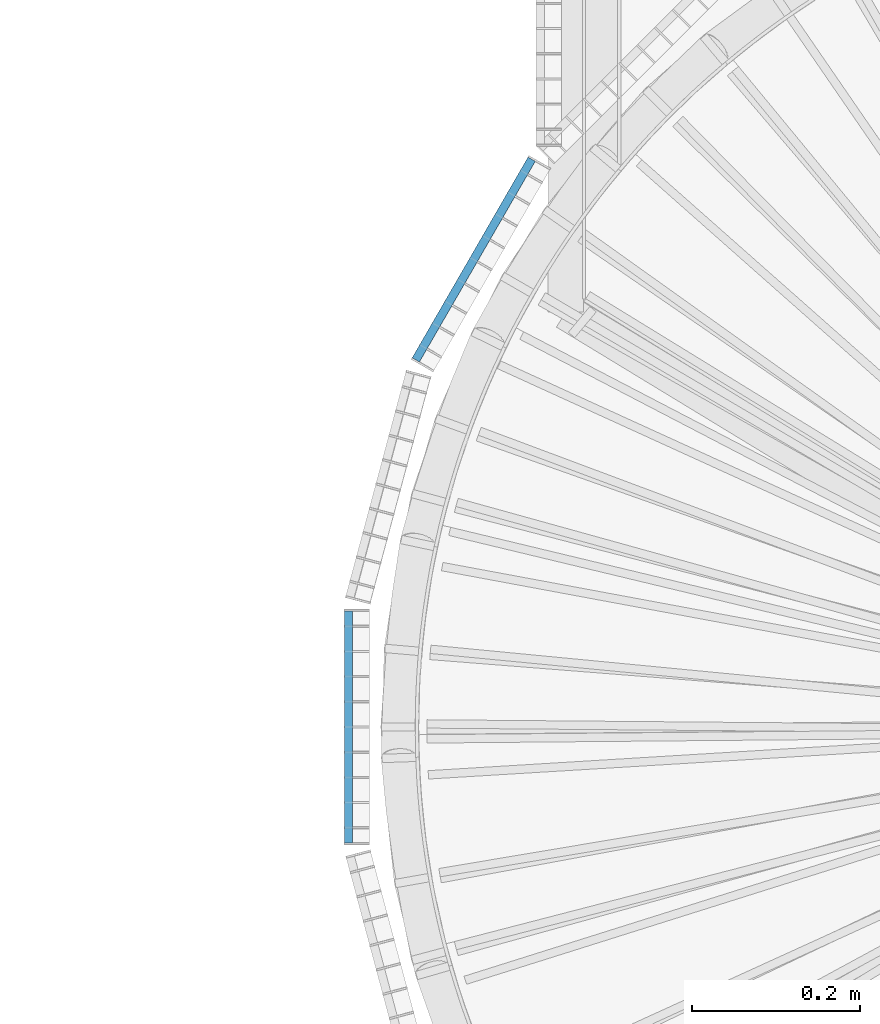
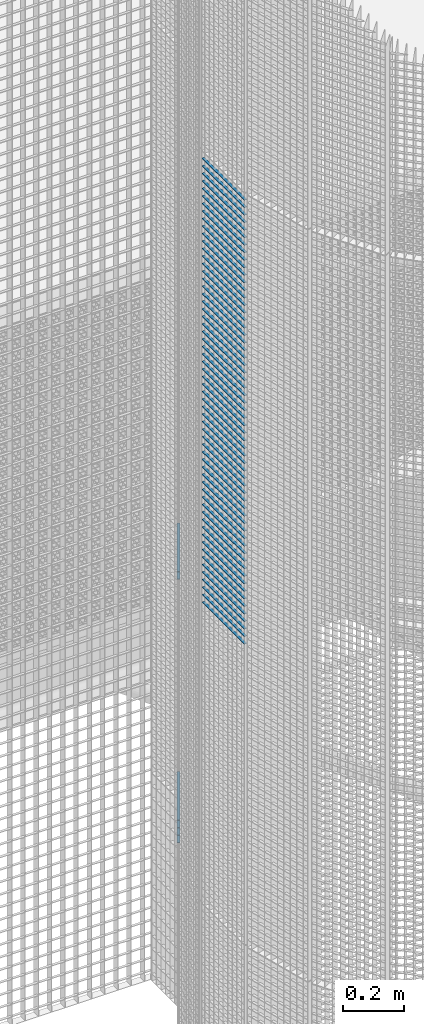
# One storey, part 198 of 1148: 66 beams, 2 elements without a shape of their own.
"""IFC2X3 building model written with IfcOpenShell, lengths in millimetres."""

from ifc_helpers import new_model, si_unit, frame, origin_with_axes, origin_2d_with_axis, place, context, subcontext, project, spatial, rectangle, extrude, material, type_object, element, aggregate, save


model = new_model("IFC2X3")

# Units and contexts
model_context = context("Model", 3, precision=1e-05, world=origin_with_axes())
body_context = subcontext(model_context, "Body", "Model", "MODEL_VIEW")
ifc_project = project(units=[si_unit("LENGTHUNIT", "METRE", prefix="MILLI"), si_unit("AREAUNIT", "SQUARE_METRE"), si_unit("VOLUMEUNIT", "CUBIC_METRE"), si_unit("MASSUNIT", "GRAM", prefix="KILO"), si_unit("TIMEUNIT", "SECOND"), si_unit("PLANEANGLEUNIT", "RADIAN"), si_unit("SOLIDANGLEUNIT", "STERADIAN"), si_unit("THERMODYNAMICTEMPERATUREUNIT", "DEGREE_CELSIUS"), si_unit("LUMINOUSINTENSITYUNIT", "LUMEN")], contexts=[model_context])

# Site, building, storey
site_placement = place(None, origin_with_axes())
site = spatial("IfcSite", under=ifc_project, at=site_placement, Name="Undefined", CompositionType="ELEMENT")
building_placement = place(site_placement, origin_with_axes())
building = spatial("IfcBuilding", under=site, at=building_placement, Name="Undefined", CompositionType="ELEMENT")
storey_placement = place(building_placement, origin_with_axes())
storey = spatial("IfcBuildingStorey", under=building, at=storey_placement, Name="Undefined", CompositionType="ELEMENT", Elevation=0.0)

# Assembly, beams
assembly_1_placement = place(storey_placement, origin_with_axes())
assembly_1 = element("IfcElementAssembly", 1, at=assembly_1_placement, inside=storey, Name="BORDURE", AssemblyPlace="NOTDEFINED", PredefinedType="NOTDEFINED")
ifc_material = material(Name="STEEL/S235JR")
beam_type = type_object("IfcBeamType", Name="PL2*10", PredefinedType="NOTDEFINED")
beam_1_placement = place(assembly_1_placement, frame((-895.30396491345, 676.24804453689, 6120.0), z_axis=(-0.866025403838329, 0.499999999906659, 0.0), x_axis=(-0.49999999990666, -0.866025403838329, 0.0)))
beam_1 = element("IfcBeam", 2, at=beam_1_placement, type_object=beam_type, material=ifc_material, Name="ENTRETOISE", context=body_context, shape_type="SweptSolid", body=[
    extrude(rectangle(XDim=2.0, YDim=10.0, at=origin_2d_with_axis()), frame((275.999999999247, 9.09494701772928e-13, 1.53210777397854e-14), z_axis=(-1.0, 0.0, 0.0), x_axis=(0.0, -1.0, 0.0)), (0.0, 0.0, 1.0), 276.0),
])
beam_2_placement = place(assembly_1_placement, frame((-895.303964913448, 676.248044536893, 7080.0), z_axis=(-0.866025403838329, 0.499999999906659, 0.0), x_axis=(-0.49999999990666, -0.866025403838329, 0.0)))
beam_2 = element("IfcBeam", 3, at=beam_2_placement, type_object=beam_type, material=ifc_material, Name="ENTRETOISE", context=body_context, shape_type="SweptSolid", body=[
    extrude(rectangle(XDim=2.0, YDim=10.0, at=origin_2d_with_axis()), frame((275.999999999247, 9.09494701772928e-13, 1.53210777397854e-14), z_axis=(-1.0, 0.0, 0.0), x_axis=(0.0, -1.0, 0.0)), (0.0, 0.0, 1.0), 276.0),
])
beam_3_placement = place(assembly_1_placement, frame((-895.30396491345, 676.24804453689, 6090.0), z_axis=(-0.866025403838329, 0.499999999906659, 0.0), x_axis=(-0.49999999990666, -0.866025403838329, 0.0)))
beam_3 = element("IfcBeam", 4, at=beam_3_placement, type_object=beam_type, material=ifc_material, Name="ENTRETOISE", context=body_context, shape_type="SweptSolid", body=[
    extrude(rectangle(XDim=2.0, YDim=10.0, at=origin_2d_with_axis()), frame((275.999999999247, 9.09494701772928e-13, 1.53210777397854e-14), z_axis=(-1.0, 0.0, 0.0), x_axis=(0.0, -1.0, 0.0)), (0.0, 0.0, 1.0), 276.0),
])
beam_4_placement = place(assembly_1_placement, frame((-895.30396491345, 676.24804453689, 6060.0), z_axis=(-0.866025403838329, 0.499999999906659, 0.0), x_axis=(-0.49999999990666, -0.866025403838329, 0.0)))
beam_4 = element("IfcBeam", 5, at=beam_4_placement, type_object=beam_type, material=ifc_material, Name="ENTRETOISE", context=body_context, shape_type="SweptSolid", body=[
    extrude(rectangle(XDim=2.0, YDim=10.0, at=origin_2d_with_axis()), frame((275.999999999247, 9.09494701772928e-13, 1.53210777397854e-14), z_axis=(-1.0, 0.0, 0.0), x_axis=(0.0, -1.0, 0.0)), (0.0, 0.0, 1.0), 276.0),
])
beam_5_placement = place(assembly_1_placement, frame((-895.303964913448, 676.248044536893, 7110.0), z_axis=(-0.866025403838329, 0.499999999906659, 0.0), x_axis=(-0.49999999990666, -0.866025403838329, 0.0)))
beam_5 = element("IfcBeam", 6, at=beam_5_placement, type_object=beam_type, material=ifc_material, Name="ENTRETOISE", context=body_context, shape_type="SweptSolid", body=[
    extrude(rectangle(XDim=2.0, YDim=10.0, at=origin_2d_with_axis()), frame((275.999999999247, 9.09494701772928e-13, 1.53210777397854e-14), z_axis=(-1.0, 0.0, 0.0), x_axis=(0.0, -1.0, 0.0)), (0.0, 0.0, 1.0), 276.0),
])
beam_6_placement = place(assembly_1_placement, frame((-895.30396491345, 676.248044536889, 6030.0), z_axis=(-0.866025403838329, 0.499999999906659, 0.0), x_axis=(-0.49999999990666, -0.866025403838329, 0.0)))
beam_6 = element("IfcBeam", 7, at=beam_6_placement, type_object=beam_type, material=ifc_material, Name="ENTRETOISE", context=body_context, shape_type="SweptSolid", body=[
    extrude(rectangle(XDim=2.0, YDim=10.0, at=origin_2d_with_axis()), frame((275.999999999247, 9.09494701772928e-13, 1.53210777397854e-14), z_axis=(-1.0, 0.0, 0.0), x_axis=(0.0, -1.0, 0.0)), (0.0, 0.0, 1.0), 276.0),
])
aggregate(assembly_1, [beam_1, beam_2, beam_3, beam_4, beam_5, beam_6])

assembly_2_placement = place(storey_placement, origin_with_axes())
assembly_2 = element("IfcElementAssembly", 8, at=assembly_2_placement, inside=storey, Name="BORDURE", AssemblyPlace="NOTDEFINED", PredefinedType="NOTDEFINED")
beam_7_placement = place(assembly_2_placement, frame((-1113.47999999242, 137.996003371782, 8970.0), z_axis=(-1.0, 0.0, 0.0), x_axis=(0.0, -1.0, 0.0)))
beam_7 = element("IfcBeam", 9, at=beam_7_placement, type_object=beam_type, material=ifc_material, Name="ENTRETOISE", context=body_context, shape_type="SweptSolid", body=[
    extrude(rectangle(XDim=2.0, YDim=10.0, at=origin_2d_with_axis()), frame((275.999999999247, 9.09494701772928e-13, 1.53210777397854e-14), z_axis=(-1.0, 0.0, 0.0), x_axis=(0.0, -1.0, 0.0)), (0.0, 0.0, 1.0), 276.0),
])
beam_8_placement = place(assembly_2_placement, frame((-1113.47999999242, 137.996003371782, 8940.0), z_axis=(-1.0, 0.0, 0.0), x_axis=(0.0, -1.0, 0.0)))
beam_8 = element("IfcBeam", 10, at=beam_8_placement, type_object=beam_type, material=ifc_material, Name="ENTRETOISE", context=body_context, shape_type="SweptSolid", body=[
    extrude(rectangle(XDim=2.0, YDim=10.0, at=origin_2d_with_axis()), frame((275.999999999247, 9.09494701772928e-13, 1.53210777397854e-14), z_axis=(-1.0, 0.0, 0.0), x_axis=(0.0, -1.0, 0.0)), (0.0, 0.0, 1.0), 276.0),
])
beam_9_placement = place(assembly_2_placement, frame((-1113.47999999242, 137.996003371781, 8910.0), z_axis=(-1.0, 0.0, 0.0), x_axis=(0.0, -1.0, 0.0)))
beam_9 = element("IfcBeam", 11, at=beam_9_placement, type_object=beam_type, material=ifc_material, Name="ENTRETOISE", context=body_context, shape_type="SweptSolid", body=[
    extrude(rectangle(XDim=2.0, YDim=10.0, at=origin_2d_with_axis()), frame((275.999999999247, 9.09494701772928e-13, 1.53210777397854e-14), z_axis=(-1.0, 0.0, 0.0), x_axis=(0.0, -1.0, 0.0)), (0.0, 0.0, 1.0), 276.0),
])
beam_10_placement = place(assembly_2_placement, frame((-1113.47999999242, 137.996003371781, 8880.0), z_axis=(-1.0, 0.0, 0.0), x_axis=(0.0, -1.0, 0.0)))
beam_10 = element("IfcBeam", 12, at=beam_10_placement, type_object=beam_type, material=ifc_material, Name="ENTRETOISE", context=body_context, shape_type="SweptSolid", body=[
    extrude(rectangle(XDim=2.0, YDim=10.0, at=origin_2d_with_axis()), frame((275.999999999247, 9.09494701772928e-13, 1.53210777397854e-14), z_axis=(-1.0, 0.0, 0.0), x_axis=(0.0, -1.0, 0.0)), (0.0, 0.0, 1.0), 276.0),
])
beam_11_placement = place(assembly_2_placement, frame((-1113.47999999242, 137.996003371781, 8850.0), z_axis=(-1.0, 0.0, 0.0), x_axis=(0.0, -1.0, 0.0)))
beam_11 = element("IfcBeam", 13, at=beam_11_placement, type_object=beam_type, material=ifc_material, Name="ENTRETOISE", context=body_context, shape_type="SweptSolid", body=[
    extrude(rectangle(XDim=2.0, YDim=10.0, at=origin_2d_with_axis()), frame((275.999999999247, 9.09494701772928e-13, 1.53210777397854e-14), z_axis=(-1.0, 0.0, 0.0), x_axis=(0.0, -1.0, 0.0)), (0.0, 0.0, 1.0), 276.0),
])
beam_12_placement = place(assembly_2_placement, frame((-1113.47999999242, 137.996003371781, 8820.0), z_axis=(-1.0, 0.0, 0.0), x_axis=(0.0, -1.0, 0.0)))
beam_12 = element("IfcBeam", 14, at=beam_12_placement, type_object=beam_type, material=ifc_material, Name="ENTRETOISE", context=body_context, shape_type="SweptSolid", body=[
    extrude(rectangle(XDim=2.0, YDim=10.0, at=origin_2d_with_axis()), frame((275.999999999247, 9.09494701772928e-13, 1.53210777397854e-14), z_axis=(-1.0, 0.0, 0.0), x_axis=(0.0, -1.0, 0.0)), (0.0, 0.0, 1.0), 276.0),
])
beam_13_placement = place(assembly_2_placement, frame((-1113.47999999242, 137.996003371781, 8790.0), z_axis=(-1.0, 0.0, 0.0), x_axis=(0.0, -1.0, 0.0)))
beam_13 = element("IfcBeam", 15, at=beam_13_placement, type_object=beam_type, material=ifc_material, Name="ENTRETOISE", context=body_context, shape_type="SweptSolid", body=[
    extrude(rectangle(XDim=2.0, YDim=10.0, at=origin_2d_with_axis()), frame((275.999999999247, 9.09494701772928e-13, 1.53210777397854e-14), z_axis=(-1.0, 0.0, 0.0), x_axis=(0.0, -1.0, 0.0)), (0.0, 0.0, 1.0), 276.0),
])
beam_14_placement = place(assembly_2_placement, frame((-1113.47999999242, 137.996003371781, 8760.0), z_axis=(-1.0, 0.0, 0.0), x_axis=(0.0, -1.0, 0.0)))
beam_14 = element("IfcBeam", 16, at=beam_14_placement, type_object=beam_type, material=ifc_material, Name="ENTRETOISE", context=body_context, shape_type="SweptSolid", body=[
    extrude(rectangle(XDim=2.0, YDim=10.0, at=origin_2d_with_axis()), frame((275.999999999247, 9.09494701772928e-13, 1.53210777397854e-14), z_axis=(-1.0, 0.0, 0.0), x_axis=(0.0, -1.0, 0.0)), (0.0, 0.0, 1.0), 276.0),
])
beam_15_placement = place(assembly_2_placement, frame((-1113.47999999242, 137.996003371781, 8730.0), z_axis=(-1.0, 0.0, 0.0), x_axis=(0.0, -1.0, 0.0)))
beam_15 = element("IfcBeam", 17, at=beam_15_placement, type_object=beam_type, material=ifc_material, Name="ENTRETOISE", context=body_context, shape_type="SweptSolid", body=[
    extrude(rectangle(XDim=2.0, YDim=10.0, at=origin_2d_with_axis()), frame((275.999999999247, 9.09494701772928e-13, 1.53210777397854e-14), z_axis=(-1.0, 0.0, 0.0), x_axis=(0.0, -1.0, 0.0)), (0.0, 0.0, 1.0), 276.0),
])
beam_16_placement = place(assembly_2_placement, frame((-1113.47999999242, 137.996003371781, 8700.0), z_axis=(-1.0, 0.0, 0.0), x_axis=(0.0, -1.0, 0.0)))
beam_16 = element("IfcBeam", 18, at=beam_16_placement, type_object=beam_type, material=ifc_material, Name="ENTRETOISE", context=body_context, shape_type="SweptSolid", body=[
    extrude(rectangle(XDim=2.0, YDim=10.0, at=origin_2d_with_axis()), frame((275.999999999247, 9.09494701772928e-13, 1.53210777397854e-14), z_axis=(-1.0, 0.0, 0.0), x_axis=(0.0, -1.0, 0.0)), (0.0, 0.0, 1.0), 276.0),
])
beam_17_placement = place(assembly_2_placement, frame((-1113.47999999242, 137.996003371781, 8670.0), z_axis=(-1.0, 0.0, 0.0), x_axis=(0.0, -1.0, 0.0)))
beam_17 = element("IfcBeam", 19, at=beam_17_placement, type_object=beam_type, material=ifc_material, Name="ENTRETOISE", context=body_context, shape_type="SweptSolid", body=[
    extrude(rectangle(XDim=2.0, YDim=10.0, at=origin_2d_with_axis()), frame((275.999999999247, 9.09494701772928e-13, 1.53210777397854e-14), z_axis=(-1.0, 0.0, 0.0), x_axis=(0.0, -1.0, 0.0)), (0.0, 0.0, 1.0), 276.0),
])
beam_18_placement = place(assembly_2_placement, frame((-1113.47999999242, 137.99600337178, 8640.0), z_axis=(-1.0, 0.0, 0.0), x_axis=(0.0, -1.0, 0.0)))
beam_18 = element("IfcBeam", 20, at=beam_18_placement, type_object=beam_type, material=ifc_material, Name="ENTRETOISE", context=body_context, shape_type="SweptSolid", body=[
    extrude(rectangle(XDim=2.0, YDim=10.0, at=origin_2d_with_axis()), frame((275.999999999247, 9.09494701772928e-13, 1.53210777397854e-14), z_axis=(-1.0, 0.0, 0.0), x_axis=(0.0, -1.0, 0.0)), (0.0, 0.0, 1.0), 276.0),
])
beam_19_placement = place(assembly_2_placement, frame((-1113.47999999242, 137.99600337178, 8610.0), z_axis=(-1.0, 0.0, 0.0), x_axis=(0.0, -1.0, 0.0)))
beam_19 = element("IfcBeam", 21, at=beam_19_placement, type_object=beam_type, material=ifc_material, Name="ENTRETOISE", context=body_context, shape_type="SweptSolid", body=[
    extrude(rectangle(XDim=2.0, YDim=10.0, at=origin_2d_with_axis()), frame((275.999999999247, 9.09494701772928e-13, 1.53210777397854e-14), z_axis=(-1.0, 0.0, 0.0), x_axis=(0.0, -1.0, 0.0)), (0.0, 0.0, 1.0), 276.0),
])
beam_20_placement = place(assembly_2_placement, frame((-1113.47999999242, 137.99600337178, 8580.0), z_axis=(-1.0, 0.0, 0.0), x_axis=(0.0, -1.0, 0.0)))
beam_20 = element("IfcBeam", 22, at=beam_20_placement, type_object=beam_type, material=ifc_material, Name="ENTRETOISE", context=body_context, shape_type="SweptSolid", body=[
    extrude(rectangle(XDim=2.0, YDim=10.0, at=origin_2d_with_axis()), frame((275.999999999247, 9.09494701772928e-13, 1.53210777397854e-14), z_axis=(-1.0, 0.0, 0.0), x_axis=(0.0, -1.0, 0.0)), (0.0, 0.0, 1.0), 276.0),
])
beam_21_placement = place(assembly_2_placement, frame((-1113.47999999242, 137.99600337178, 8550.0), z_axis=(-1.0, 0.0, 0.0), x_axis=(0.0, -1.0, 0.0)))
beam_21 = element("IfcBeam", 23, at=beam_21_placement, type_object=beam_type, material=ifc_material, Name="ENTRETOISE", context=body_context, shape_type="SweptSolid", body=[
    extrude(rectangle(XDim=2.0, YDim=10.0, at=origin_2d_with_axis()), frame((275.999999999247, 9.09494701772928e-13, 1.53210777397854e-14), z_axis=(-1.0, 0.0, 0.0), x_axis=(0.0, -1.0, 0.0)), (0.0, 0.0, 1.0), 276.0),
])
beam_22_placement = place(assembly_2_placement, frame((-1113.47999999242, 137.99600337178, 8520.0), z_axis=(-1.0, 0.0, 0.0), x_axis=(0.0, -1.0, 0.0)))
beam_22 = element("IfcBeam", 24, at=beam_22_placement, type_object=beam_type, material=ifc_material, Name="ENTRETOISE", context=body_context, shape_type="SweptSolid", body=[
    extrude(rectangle(XDim=2.0, YDim=10.0, at=origin_2d_with_axis()), frame((275.999999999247, 9.09494701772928e-13, 1.53210777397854e-14), z_axis=(-1.0, 0.0, 0.0), x_axis=(0.0, -1.0, 0.0)), (0.0, 0.0, 1.0), 276.0),
])
beam_23_placement = place(assembly_2_placement, frame((-1113.47999999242, 137.99600337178, 8490.0), z_axis=(-1.0, 0.0, 0.0), x_axis=(0.0, -1.0, 0.0)))
beam_23 = element("IfcBeam", 25, at=beam_23_placement, type_object=beam_type, material=ifc_material, Name="ENTRETOISE", context=body_context, shape_type="SweptSolid", body=[
    extrude(rectangle(XDim=2.0, YDim=10.0, at=origin_2d_with_axis()), frame((275.999999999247, 9.09494701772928e-13, 1.53210777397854e-14), z_axis=(-1.0, 0.0, 0.0), x_axis=(0.0, -1.0, 0.0)), (0.0, 0.0, 1.0), 276.0),
])
beam_24_placement = place(assembly_2_placement, frame((-1113.47999999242, 137.99600337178, 8460.0), z_axis=(-1.0, 0.0, 0.0), x_axis=(0.0, -1.0, 0.0)))
beam_24 = element("IfcBeam", 26, at=beam_24_placement, type_object=beam_type, material=ifc_material, Name="ENTRETOISE", context=body_context, shape_type="SweptSolid", body=[
    extrude(rectangle(XDim=2.0, YDim=10.0, at=origin_2d_with_axis()), frame((275.999999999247, 9.09494701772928e-13, 1.53210777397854e-14), z_axis=(-1.0, 0.0, 0.0), x_axis=(0.0, -1.0, 0.0)), (0.0, 0.0, 1.0), 276.0),
])
beam_25_placement = place(assembly_2_placement, frame((-1113.47999999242, 137.99600337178, 8430.0), z_axis=(-1.0, 0.0, 0.0), x_axis=(0.0, -1.0, 0.0)))
beam_25 = element("IfcBeam", 27, at=beam_25_placement, type_object=beam_type, material=ifc_material, Name="ENTRETOISE", context=body_context, shape_type="SweptSolid", body=[
    extrude(rectangle(XDim=2.0, YDim=10.0, at=origin_2d_with_axis()), frame((275.999999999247, 9.09494701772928e-13, 1.53210777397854e-14), z_axis=(-1.0, 0.0, 0.0), x_axis=(0.0, -1.0, 0.0)), (0.0, 0.0, 1.0), 276.0),
])
beam_26_placement = place(assembly_2_placement, frame((-1113.47999999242, 137.99600337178, 8400.0), z_axis=(-1.0, 0.0, 0.0), x_axis=(0.0, -1.0, 0.0)))
beam_26 = element("IfcBeam", 28, at=beam_26_placement, type_object=beam_type, material=ifc_material, Name="ENTRETOISE", context=body_context, shape_type="SweptSolid", body=[
    extrude(rectangle(XDim=2.0, YDim=10.0, at=origin_2d_with_axis()), frame((275.999999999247, 9.09494701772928e-13, 1.53210777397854e-14), z_axis=(-1.0, 0.0, 0.0), x_axis=(0.0, -1.0, 0.0)), (0.0, 0.0, 1.0), 276.0),
])
beam_27_placement = place(assembly_2_placement, frame((-1113.47999999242, 137.996003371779, 8370.0), z_axis=(-1.0, 0.0, 0.0), x_axis=(0.0, -1.0, 0.0)))
beam_27 = element("IfcBeam", 29, at=beam_27_placement, type_object=beam_type, material=ifc_material, Name="ENTRETOISE", context=body_context, shape_type="SweptSolid", body=[
    extrude(rectangle(XDim=2.0, YDim=10.0, at=origin_2d_with_axis()), frame((275.999999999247, 9.09494701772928e-13, 1.53210777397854e-14), z_axis=(-1.0, 0.0, 0.0), x_axis=(0.0, -1.0, 0.0)), (0.0, 0.0, 1.0), 276.0),
])
beam_28_placement = place(assembly_2_placement, frame((-1113.47999999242, 137.996003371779, 8340.0), z_axis=(-1.0, 0.0, 0.0), x_axis=(0.0, -1.0, 0.0)))
beam_28 = element("IfcBeam", 30, at=beam_28_placement, type_object=beam_type, material=ifc_material, Name="ENTRETOISE", context=body_context, shape_type="SweptSolid", body=[
    extrude(rectangle(XDim=2.0, YDim=10.0, at=origin_2d_with_axis()), frame((275.999999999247, 9.09494701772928e-13, 1.53210777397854e-14), z_axis=(-1.0, 0.0, 0.0), x_axis=(0.0, -1.0, 0.0)), (0.0, 0.0, 1.0), 276.0),
])
beam_29_placement = place(assembly_2_placement, frame((-1113.47999999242, 137.996003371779, 8310.0), z_axis=(-1.0, 0.0, 0.0), x_axis=(0.0, -1.0, 0.0)))
beam_29 = element("IfcBeam", 31, at=beam_29_placement, type_object=beam_type, material=ifc_material, Name="ENTRETOISE", context=body_context, shape_type="SweptSolid", body=[
    extrude(rectangle(XDim=2.0, YDim=10.0, at=origin_2d_with_axis()), frame((275.999999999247, 9.09494701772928e-13, 1.53210777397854e-14), z_axis=(-1.0, 0.0, 0.0), x_axis=(0.0, -1.0, 0.0)), (0.0, 0.0, 1.0), 276.0),
])
beam_30_placement = place(assembly_2_placement, frame((-1113.47999999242, 137.996003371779, 8280.0), z_axis=(-1.0, 0.0, 0.0), x_axis=(0.0, -1.0, 0.0)))
beam_30 = element("IfcBeam", 32, at=beam_30_placement, type_object=beam_type, material=ifc_material, Name="ENTRETOISE", context=body_context, shape_type="SweptSolid", body=[
    extrude(rectangle(XDim=2.0, YDim=10.0, at=origin_2d_with_axis()), frame((275.999999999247, 9.09494701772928e-13, 1.53210777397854e-14), z_axis=(-1.0, 0.0, 0.0), x_axis=(0.0, -1.0, 0.0)), (0.0, 0.0, 1.0), 276.0),
])
beam_31_placement = place(assembly_2_placement, frame((-1113.47999999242, 137.996003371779, 8250.0), z_axis=(-1.0, 0.0, 0.0), x_axis=(0.0, -1.0, 0.0)))
beam_31 = element("IfcBeam", 33, at=beam_31_placement, type_object=beam_type, material=ifc_material, Name="ENTRETOISE", context=body_context, shape_type="SweptSolid", body=[
    extrude(rectangle(XDim=2.0, YDim=10.0, at=origin_2d_with_axis()), frame((275.999999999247, 9.09494701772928e-13, 1.53210777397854e-14), z_axis=(-1.0, 0.0, 0.0), x_axis=(0.0, -1.0, 0.0)), (0.0, 0.0, 1.0), 276.0),
])
beam_32_placement = place(assembly_2_placement, frame((-1113.47999999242, 137.996003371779, 8220.0), z_axis=(-1.0, 0.0, 0.0), x_axis=(0.0, -1.0, 0.0)))
beam_32 = element("IfcBeam", 34, at=beam_32_placement, type_object=beam_type, material=ifc_material, Name="ENTRETOISE", context=body_context, shape_type="SweptSolid", body=[
    extrude(rectangle(XDim=2.0, YDim=10.0, at=origin_2d_with_axis()), frame((275.999999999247, 9.09494701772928e-13, 1.53210777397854e-14), z_axis=(-1.0, 0.0, 0.0), x_axis=(0.0, -1.0, 0.0)), (0.0, 0.0, 1.0), 276.0),
])
beam_33_placement = place(assembly_2_placement, frame((-1113.47999999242, 137.996003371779, 8190.0), z_axis=(-1.0, 0.0, 0.0), x_axis=(0.0, -1.0, 0.0)))
beam_33 = element("IfcBeam", 35, at=beam_33_placement, type_object=beam_type, material=ifc_material, Name="ENTRETOISE", context=body_context, shape_type="SweptSolid", body=[
    extrude(rectangle(XDim=2.0, YDim=10.0, at=origin_2d_with_axis()), frame((275.999999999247, 9.09494701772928e-13, 1.53210777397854e-14), z_axis=(-1.0, 0.0, 0.0), x_axis=(0.0, -1.0, 0.0)), (0.0, 0.0, 1.0), 276.0),
])
beam_34_placement = place(assembly_2_placement, frame((-1113.47999999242, 137.996003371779, 8160.0), z_axis=(-1.0, 0.0, 0.0), x_axis=(0.0, -1.0, 0.0)))
beam_34 = element("IfcBeam", 36, at=beam_34_placement, type_object=beam_type, material=ifc_material, Name="ENTRETOISE", context=body_context, shape_type="SweptSolid", body=[
    extrude(rectangle(XDim=2.0, YDim=10.0, at=origin_2d_with_axis()), frame((275.999999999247, 9.09494701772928e-13, 1.53210777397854e-14), z_axis=(-1.0, 0.0, 0.0), x_axis=(0.0, -1.0, 0.0)), (0.0, 0.0, 1.0), 276.0),
])
beam_35_placement = place(assembly_2_placement, frame((-1113.47999999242, 137.996003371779, 8130.0), z_axis=(-1.0, 0.0, 0.0), x_axis=(0.0, -1.0, 0.0)))
beam_35 = element("IfcBeam", 37, at=beam_35_placement, type_object=beam_type, material=ifc_material, Name="ENTRETOISE", context=body_context, shape_type="SweptSolid", body=[
    extrude(rectangle(XDim=2.0, YDim=10.0, at=origin_2d_with_axis()), frame((275.999999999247, 9.09494701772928e-13, 1.53210777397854e-14), z_axis=(-1.0, 0.0, 0.0), x_axis=(0.0, -1.0, 0.0)), (0.0, 0.0, 1.0), 276.0),
])
beam_36_placement = place(assembly_2_placement, frame((-1113.47999999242, 137.996003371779, 8100.0), z_axis=(-1.0, 0.0, 0.0), x_axis=(0.0, -1.0, 0.0)))
beam_36 = element("IfcBeam", 38, at=beam_36_placement, type_object=beam_type, material=ifc_material, Name="ENTRETOISE", context=body_context, shape_type="SweptSolid", body=[
    extrude(rectangle(XDim=2.0, YDim=10.0, at=origin_2d_with_axis()), frame((275.999999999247, 9.09494701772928e-13, 1.53210777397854e-14), z_axis=(-1.0, 0.0, 0.0), x_axis=(0.0, -1.0, 0.0)), (0.0, 0.0, 1.0), 276.0),
])
beam_37_placement = place(assembly_2_placement, frame((-1113.47999999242, 137.996003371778, 8070.0), z_axis=(-1.0, 0.0, 0.0), x_axis=(0.0, -1.0, 0.0)))
beam_37 = element("IfcBeam", 39, at=beam_37_placement, type_object=beam_type, material=ifc_material, Name="ENTRETOISE", context=body_context, shape_type="SweptSolid", body=[
    extrude(rectangle(XDim=2.0, YDim=10.0, at=origin_2d_with_axis()), frame((275.999999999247, 9.09494701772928e-13, 1.53210777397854e-14), z_axis=(-1.0, 0.0, 0.0), x_axis=(0.0, -1.0, 0.0)), (0.0, 0.0, 1.0), 276.0),
])
beam_38_placement = place(assembly_2_placement, frame((-1113.47999999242, 137.996003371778, 8040.0), z_axis=(-1.0, 0.0, 0.0), x_axis=(0.0, -1.0, 0.0)))
beam_38 = element("IfcBeam", 40, at=beam_38_placement, type_object=beam_type, material=ifc_material, Name="ENTRETOISE", context=body_context, shape_type="SweptSolid", body=[
    extrude(rectangle(XDim=2.0, YDim=10.0, at=origin_2d_with_axis()), frame((275.999999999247, 9.09494701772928e-13, 1.53210777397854e-14), z_axis=(-1.0, 0.0, 0.0), x_axis=(0.0, -1.0, 0.0)), (0.0, 0.0, 1.0), 276.0),
])
beam_39_placement = place(assembly_2_placement, frame((-1113.47999999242, 137.996003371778, 8010.0), z_axis=(-1.0, 0.0, 0.0), x_axis=(0.0, -1.0, 0.0)))
beam_39 = element("IfcBeam", 41, at=beam_39_placement, type_object=beam_type, material=ifc_material, Name="ENTRETOISE", context=body_context, shape_type="SweptSolid", body=[
    extrude(rectangle(XDim=2.0, YDim=10.0, at=origin_2d_with_axis()), frame((275.999999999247, 9.09494701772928e-13, 1.53210777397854e-14), z_axis=(-1.0, 0.0, 0.0), x_axis=(0.0, -1.0, 0.0)), (0.0, 0.0, 1.0), 276.0),
])
beam_40_placement = place(assembly_2_placement, frame((-1113.47999999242, 137.996003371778, 7980.0), z_axis=(-1.0, 0.0, 0.0), x_axis=(0.0, -1.0, 0.0)))
beam_40 = element("IfcBeam", 42, at=beam_40_placement, type_object=beam_type, material=ifc_material, Name="ENTRETOISE", context=body_context, shape_type="SweptSolid", body=[
    extrude(rectangle(XDim=2.0, YDim=10.0, at=origin_2d_with_axis()), frame((275.999999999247, 9.09494701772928e-13, 1.53210777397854e-14), z_axis=(-1.0, 0.0, 0.0), x_axis=(0.0, -1.0, 0.0)), (0.0, 0.0, 1.0), 276.0),
])
beam_41_placement = place(assembly_2_placement, frame((-1113.47999999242, 137.996003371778, 7950.0), z_axis=(-1.0, 0.0, 0.0), x_axis=(0.0, -1.0, 0.0)))
beam_41 = element("IfcBeam", 43, at=beam_41_placement, type_object=beam_type, material=ifc_material, Name="ENTRETOISE", context=body_context, shape_type="SweptSolid", body=[
    extrude(rectangle(XDim=2.0, YDim=10.0, at=origin_2d_with_axis()), frame((275.999999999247, 9.09494701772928e-13, 1.53210777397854e-14), z_axis=(-1.0, 0.0, 0.0), x_axis=(0.0, -1.0, 0.0)), (0.0, 0.0, 1.0), 276.0),
])
beam_42_placement = place(assembly_2_placement, frame((-1113.47999999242, 137.996003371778, 7920.0), z_axis=(-1.0, 0.0, 0.0), x_axis=(0.0, -1.0, 0.0)))
beam_42 = element("IfcBeam", 44, at=beam_42_placement, type_object=beam_type, material=ifc_material, Name="ENTRETOISE", context=body_context, shape_type="SweptSolid", body=[
    extrude(rectangle(XDim=2.0, YDim=10.0, at=origin_2d_with_axis()), frame((275.999999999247, 9.09494701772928e-13, 1.53210777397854e-14), z_axis=(-1.0, 0.0, 0.0), x_axis=(0.0, -1.0, 0.0)), (0.0, 0.0, 1.0), 276.0),
])
beam_43_placement = place(assembly_2_placement, frame((-1113.47999999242, 137.996003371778, 7890.0), z_axis=(-1.0, 0.0, 0.0), x_axis=(0.0, -1.0, 0.0)))
beam_43 = element("IfcBeam", 45, at=beam_43_placement, type_object=beam_type, material=ifc_material, Name="ENTRETOISE", context=body_context, shape_type="SweptSolid", body=[
    extrude(rectangle(XDim=2.0, YDim=10.0, at=origin_2d_with_axis()), frame((275.999999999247, 9.09494701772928e-13, 1.53210777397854e-14), z_axis=(-1.0, 0.0, 0.0), x_axis=(0.0, -1.0, 0.0)), (0.0, 0.0, 1.0), 276.0),
])
beam_44_placement = place(assembly_2_placement, frame((-1113.47999999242, 137.996003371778, 7860.0), z_axis=(-1.0, 0.0, 0.0), x_axis=(0.0, -1.0, 0.0)))
beam_44 = element("IfcBeam", 46, at=beam_44_placement, type_object=beam_type, material=ifc_material, Name="ENTRETOISE", context=body_context, shape_type="SweptSolid", body=[
    extrude(rectangle(XDim=2.0, YDim=10.0, at=origin_2d_with_axis()), frame((275.999999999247, 9.09494701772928e-13, 1.53210777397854e-14), z_axis=(-1.0, 0.0, 0.0), x_axis=(0.0, -1.0, 0.0)), (0.0, 0.0, 1.0), 276.0),
])
beam_45_placement = place(assembly_2_placement, frame((-1113.47999999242, 137.996003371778, 7830.0), z_axis=(-1.0, 0.0, 0.0), x_axis=(0.0, -1.0, 0.0)))
beam_45 = element("IfcBeam", 47, at=beam_45_placement, type_object=beam_type, material=ifc_material, Name="ENTRETOISE", context=body_context, shape_type="SweptSolid", body=[
    extrude(rectangle(XDim=2.0, YDim=10.0, at=origin_2d_with_axis()), frame((275.999999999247, 9.09494701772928e-13, 1.53210777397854e-14), z_axis=(-1.0, 0.0, 0.0), x_axis=(0.0, -1.0, 0.0)), (0.0, 0.0, 1.0), 276.0),
])
beam_46_placement = place(assembly_2_placement, frame((-1113.47999999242, 137.996003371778, 7800.0), z_axis=(-1.0, 0.0, 0.0), x_axis=(0.0, -1.0, 0.0)))
beam_46 = element("IfcBeam", 48, at=beam_46_placement, type_object=beam_type, material=ifc_material, Name="ENTRETOISE", context=body_context, shape_type="SweptSolid", body=[
    extrude(rectangle(XDim=2.0, YDim=10.0, at=origin_2d_with_axis()), frame((275.999999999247, 9.09494701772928e-13, 1.53210777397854e-14), z_axis=(-1.0, 0.0, 0.0), x_axis=(0.0, -1.0, 0.0)), (0.0, 0.0, 1.0), 276.0),
])
beam_47_placement = place(assembly_2_placement, frame((-1113.47999999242, 137.996003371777, 7770.0), z_axis=(-1.0, 0.0, 0.0), x_axis=(0.0, -1.0, 0.0)))
beam_47 = element("IfcBeam", 49, at=beam_47_placement, type_object=beam_type, material=ifc_material, Name="ENTRETOISE", context=body_context, shape_type="SweptSolid", body=[
    extrude(rectangle(XDim=2.0, YDim=10.0, at=origin_2d_with_axis()), frame((275.999999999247, 9.09494701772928e-13, 1.53210777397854e-14), z_axis=(-1.0, 0.0, 0.0), x_axis=(0.0, -1.0, 0.0)), (0.0, 0.0, 1.0), 276.0),
])
beam_48_placement = place(assembly_2_placement, frame((-1113.47999999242, 137.996003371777, 7740.0), z_axis=(-1.0, 0.0, 0.0), x_axis=(0.0, -1.0, 0.0)))
beam_48 = element("IfcBeam", 50, at=beam_48_placement, type_object=beam_type, material=ifc_material, Name="ENTRETOISE", context=body_context, shape_type="SweptSolid", body=[
    extrude(rectangle(XDim=2.0, YDim=10.0, at=origin_2d_with_axis()), frame((275.999999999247, 9.09494701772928e-13, 1.53210777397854e-14), z_axis=(-1.0, 0.0, 0.0), x_axis=(0.0, -1.0, 0.0)), (0.0, 0.0, 1.0), 276.0),
])
beam_49_placement = place(assembly_2_placement, frame((-1113.47999999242, 137.996003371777, 7710.0), z_axis=(-1.0, 0.0, 0.0), x_axis=(0.0, -1.0, 0.0)))
beam_49 = element("IfcBeam", 51, at=beam_49_placement, type_object=beam_type, material=ifc_material, Name="ENTRETOISE", context=body_context, shape_type="SweptSolid", body=[
    extrude(rectangle(XDim=2.0, YDim=10.0, at=origin_2d_with_axis()), frame((275.999999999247, 9.09494701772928e-13, 1.53210777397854e-14), z_axis=(-1.0, 0.0, 0.0), x_axis=(0.0, -1.0, 0.0)), (0.0, 0.0, 1.0), 276.0),
])
beam_50_placement = place(assembly_2_placement, frame((-1113.47999999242, 137.996003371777, 7680.0), z_axis=(-1.0, 0.0, 0.0), x_axis=(0.0, -1.0, 0.0)))
beam_50 = element("IfcBeam", 52, at=beam_50_placement, type_object=beam_type, material=ifc_material, Name="ENTRETOISE", context=body_context, shape_type="SweptSolid", body=[
    extrude(rectangle(XDim=2.0, YDim=10.0, at=origin_2d_with_axis()), frame((275.999999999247, 9.09494701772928e-13, 1.53210777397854e-14), z_axis=(-1.0, 0.0, 0.0), x_axis=(0.0, -1.0, 0.0)), (0.0, 0.0, 1.0), 276.0),
])
beam_51_placement = place(assembly_2_placement, frame((-1113.47999999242, 137.996003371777, 7650.0), z_axis=(-1.0, 0.0, 0.0), x_axis=(0.0, -1.0, 0.0)))
beam_51 = element("IfcBeam", 53, at=beam_51_placement, type_object=beam_type, material=ifc_material, Name="ENTRETOISE", context=body_context, shape_type="SweptSolid", body=[
    extrude(rectangle(XDim=2.0, YDim=10.0, at=origin_2d_with_axis()), frame((275.999999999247, 9.09494701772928e-13, 1.53210777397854e-14), z_axis=(-1.0, 0.0, 0.0), x_axis=(0.0, -1.0, 0.0)), (0.0, 0.0, 1.0), 276.0),
])
beam_52_placement = place(assembly_2_placement, frame((-1113.47999999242, 137.996003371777, 7620.0), z_axis=(-1.0, 0.0, 0.0), x_axis=(0.0, -1.0, 0.0)))
beam_52 = element("IfcBeam", 54, at=beam_52_placement, type_object=beam_type, material=ifc_material, Name="ENTRETOISE", context=body_context, shape_type="SweptSolid", body=[
    extrude(rectangle(XDim=2.0, YDim=10.0, at=origin_2d_with_axis()), frame((275.999999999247, 9.09494701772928e-13, 1.53210777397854e-14), z_axis=(-1.0, 0.0, 0.0), x_axis=(0.0, -1.0, 0.0)), (0.0, 0.0, 1.0), 276.0),
])
beam_53_placement = place(assembly_2_placement, frame((-1113.47999999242, 137.996003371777, 7590.0), z_axis=(-1.0, 0.0, 0.0), x_axis=(0.0, -1.0, 0.0)))
beam_53 = element("IfcBeam", 55, at=beam_53_placement, type_object=beam_type, material=ifc_material, Name="ENTRETOISE", context=body_context, shape_type="SweptSolid", body=[
    extrude(rectangle(XDim=2.0, YDim=10.0, at=origin_2d_with_axis()), frame((275.999999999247, 9.09494701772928e-13, 1.53210777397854e-14), z_axis=(-1.0, 0.0, 0.0), x_axis=(0.0, -1.0, 0.0)), (0.0, 0.0, 1.0), 276.0),
])
beam_54_placement = place(assembly_2_placement, frame((-1113.47999999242, 137.996003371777, 7560.0), z_axis=(-1.0, 0.0, 0.0), x_axis=(0.0, -1.0, 0.0)))
beam_54 = element("IfcBeam", 56, at=beam_54_placement, type_object=beam_type, material=ifc_material, Name="ENTRETOISE", context=body_context, shape_type="SweptSolid", body=[
    extrude(rectangle(XDim=2.0, YDim=10.0, at=origin_2d_with_axis()), frame((275.999999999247, 9.09494701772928e-13, 1.53210777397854e-14), z_axis=(-1.0, 0.0, 0.0), x_axis=(0.0, -1.0, 0.0)), (0.0, 0.0, 1.0), 276.0),
])
beam_55_placement = place(assembly_2_placement, frame((-1113.47999999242, 137.996003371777, 7530.0), z_axis=(-1.0, 0.0, 0.0), x_axis=(0.0, -1.0, 0.0)))
beam_55 = element("IfcBeam", 57, at=beam_55_placement, type_object=beam_type, material=ifc_material, Name="ENTRETOISE", context=body_context, shape_type="SweptSolid", body=[
    extrude(rectangle(XDim=2.0, YDim=10.0, at=origin_2d_with_axis()), frame((275.999999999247, 9.09494701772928e-13, 1.53210777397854e-14), z_axis=(-1.0, 0.0, 0.0), x_axis=(0.0, -1.0, 0.0)), (0.0, 0.0, 1.0), 276.0),
])
beam_56_placement = place(assembly_2_placement, frame((-1113.47999999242, 137.996003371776, 7500.0), z_axis=(-1.0, 0.0, 0.0), x_axis=(0.0, -1.0, 0.0)))
beam_56 = element("IfcBeam", 58, at=beam_56_placement, type_object=beam_type, material=ifc_material, Name="ENTRETOISE", context=body_context, shape_type="SweptSolid", body=[
    extrude(rectangle(XDim=2.0, YDim=10.0, at=origin_2d_with_axis()), frame((275.999999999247, 9.09494701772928e-13, 1.53210777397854e-14), z_axis=(-1.0, 0.0, 0.0), x_axis=(0.0, -1.0, 0.0)), (0.0, 0.0, 1.0), 276.0),
])
beam_57_placement = place(assembly_2_placement, frame((-1113.47999999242, 137.996003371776, 7470.0), z_axis=(-1.0, 0.0, 0.0), x_axis=(0.0, -1.0, 0.0)))
beam_57 = element("IfcBeam", 59, at=beam_57_placement, type_object=beam_type, material=ifc_material, Name="ENTRETOISE", context=body_context, shape_type="SweptSolid", body=[
    extrude(rectangle(XDim=2.0, YDim=10.0, at=origin_2d_with_axis()), frame((275.999999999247, 9.09494701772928e-13, 1.53210777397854e-14), z_axis=(-1.0, 0.0, 0.0), x_axis=(0.0, -1.0, 0.0)), (0.0, 0.0, 1.0), 276.0),
])
beam_58_placement = place(assembly_2_placement, frame((-1113.47999999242, 137.996003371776, 7440.0), z_axis=(-1.0, 0.0, 0.0), x_axis=(0.0, -1.0, 0.0)))
beam_58 = element("IfcBeam", 60, at=beam_58_placement, type_object=beam_type, material=ifc_material, Name="ENTRETOISE", context=body_context, shape_type="SweptSolid", body=[
    extrude(rectangle(XDim=2.0, YDim=10.0, at=origin_2d_with_axis()), frame((275.999999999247, 9.09494701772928e-13, 1.53210777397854e-14), z_axis=(-1.0, 0.0, 0.0), x_axis=(0.0, -1.0, 0.0)), (0.0, 0.0, 1.0), 276.0),
])
beam_59_placement = place(assembly_2_placement, frame((-1113.47999999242, 137.996003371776, 7410.0), z_axis=(-1.0, 0.0, 0.0), x_axis=(0.0, -1.0, 0.0)))
beam_59 = element("IfcBeam", 61, at=beam_59_placement, type_object=beam_type, material=ifc_material, Name="ENTRETOISE", context=body_context, shape_type="SweptSolid", body=[
    extrude(rectangle(XDim=2.0, YDim=10.0, at=origin_2d_with_axis()), frame((275.999999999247, 9.09494701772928e-13, 1.53210777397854e-14), z_axis=(-1.0, 0.0, 0.0), x_axis=(0.0, -1.0, 0.0)), (0.0, 0.0, 1.0), 276.0),
])
beam_60_placement = place(assembly_2_placement, frame((-1113.47999999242, 137.996003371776, 7380.0), z_axis=(-1.0, 0.0, 0.0), x_axis=(0.0, -1.0, 0.0)))
beam_60 = element("IfcBeam", 62, at=beam_60_placement, type_object=beam_type, material=ifc_material, Name="ENTRETOISE", context=body_context, shape_type="SweptSolid", body=[
    extrude(rectangle(XDim=2.0, YDim=10.0, at=origin_2d_with_axis()), frame((275.999999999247, 9.09494701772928e-13, 1.53210777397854e-14), z_axis=(-1.0, 0.0, 0.0), x_axis=(0.0, -1.0, 0.0)), (0.0, 0.0, 1.0), 276.0),
])
beam_61_placement = place(assembly_2_placement, frame((-1113.47999999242, 137.996003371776, 7350.0), z_axis=(-1.0, 0.0, 0.0), x_axis=(0.0, -1.0, 0.0)))
beam_61 = element("IfcBeam", 63, at=beam_61_placement, type_object=beam_type, material=ifc_material, Name="ENTRETOISE", context=body_context, shape_type="SweptSolid", body=[
    extrude(rectangle(XDim=2.0, YDim=10.0, at=origin_2d_with_axis()), frame((275.999999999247, 9.09494701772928e-13, 1.53210777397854e-14), z_axis=(-1.0, 0.0, 0.0), x_axis=(0.0, -1.0, 0.0)), (0.0, 0.0, 1.0), 276.0),
])
beam_62_placement = place(assembly_2_placement, frame((-1113.47999999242, 137.996003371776, 7320.0), z_axis=(-1.0, 0.0, 0.0), x_axis=(0.0, -1.0, 0.0)))
beam_62 = element("IfcBeam", 64, at=beam_62_placement, type_object=beam_type, material=ifc_material, Name="ENTRETOISE", context=body_context, shape_type="SweptSolid", body=[
    extrude(rectangle(XDim=2.0, YDim=10.0, at=origin_2d_with_axis()), frame((275.999999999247, 9.09494701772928e-13, 1.53210777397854e-14), z_axis=(-1.0, 0.0, 0.0), x_axis=(0.0, -1.0, 0.0)), (0.0, 0.0, 1.0), 276.0),
])
beam_63_placement = place(assembly_2_placement, frame((-1113.47999999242, 137.996003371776, 7290.0), z_axis=(-1.0, 0.0, 0.0), x_axis=(0.0, -1.0, 0.0)))
beam_63 = element("IfcBeam", 65, at=beam_63_placement, type_object=beam_type, material=ifc_material, Name="ENTRETOISE", context=body_context, shape_type="SweptSolid", body=[
    extrude(rectangle(XDim=2.0, YDim=10.0, at=origin_2d_with_axis()), frame((275.999999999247, 9.09494701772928e-13, 1.53210777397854e-14), z_axis=(-1.0, 0.0, 0.0), x_axis=(0.0, -1.0, 0.0)), (0.0, 0.0, 1.0), 276.0),
])
beam_64_placement = place(assembly_2_placement, frame((-1113.47999999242, 137.996003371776, 7260.0), z_axis=(-1.0, 0.0, 0.0), x_axis=(0.0, -1.0, 0.0)))
beam_64 = element("IfcBeam", 66, at=beam_64_placement, type_object=beam_type, material=ifc_material, Name="ENTRETOISE", context=body_context, shape_type="SweptSolid", body=[
    extrude(rectangle(XDim=2.0, YDim=10.0, at=origin_2d_with_axis()), frame((275.999999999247, 9.09494701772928e-13, 1.53210777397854e-14), z_axis=(-1.0, 0.0, 0.0), x_axis=(0.0, -1.0, 0.0)), (0.0, 0.0, 1.0), 276.0),
])
beam_65_placement = place(assembly_2_placement, frame((-1113.47999999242, 137.996003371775, 7230.0), z_axis=(-1.0, 0.0, 0.0), x_axis=(0.0, -1.0, 0.0)))
beam_65 = element("IfcBeam", 67, at=beam_65_placement, type_object=beam_type, material=ifc_material, Name="ENTRETOISE", context=body_context, shape_type="SweptSolid", body=[
    extrude(rectangle(XDim=2.0, YDim=10.0, at=origin_2d_with_axis()), frame((275.999999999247, 9.09494701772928e-13, 1.53210777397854e-14), z_axis=(-1.0, 0.0, 0.0), x_axis=(0.0, -1.0, 0.0)), (0.0, 0.0, 1.0), 276.0),
])
beam_66_placement = place(assembly_2_placement, frame((-1113.47999999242, 137.996003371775, 7200.0), z_axis=(-1.0, 0.0, 0.0), x_axis=(0.0, -1.0, 0.0)))
beam_66 = element("IfcBeam", 68, at=beam_66_placement, type_object=beam_type, material=ifc_material, Name="ENTRETOISE", context=body_context, shape_type="SweptSolid", body=[
    extrude(rectangle(XDim=2.0, YDim=10.0, at=origin_2d_with_axis()), frame((275.999999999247, 9.09494701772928e-13, 1.53210777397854e-14), z_axis=(-1.0, 0.0, 0.0), x_axis=(0.0, -1.0, 0.0)), (0.0, 0.0, 1.0), 276.0),
])
aggregate(assembly_2, [beam_7, beam_8, beam_9, beam_10, beam_11, beam_12, beam_13, beam_14, beam_15, beam_16, beam_17, beam_18, beam_19, beam_20, beam_21, beam_22, beam_23, beam_24, beam_25, beam_26, beam_27, beam_28, beam_29, beam_30, beam_31, beam_32, beam_33, beam_34, beam_35, beam_36, beam_37, beam_38, beam_39, beam_40, beam_41, beam_42, beam_43, beam_44, beam_45, beam_46, beam_47, beam_48, beam_49, beam_50, beam_51, beam_52, beam_53, beam_54, beam_55, beam_56, beam_57, beam_58, beam_59, beam_60, beam_61, beam_62, beam_63, beam_64, beam_65, beam_66])

save(model, "model.ifc")
